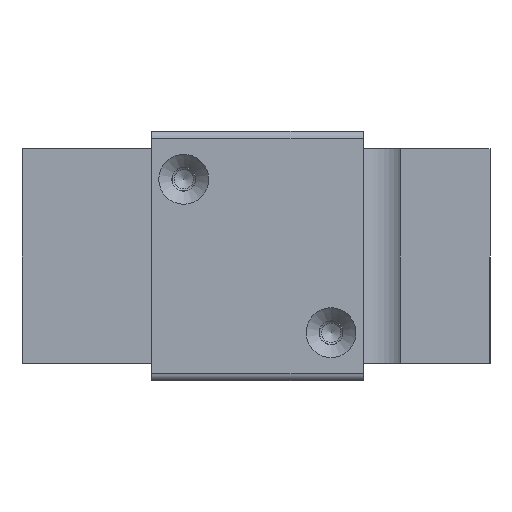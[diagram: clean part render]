
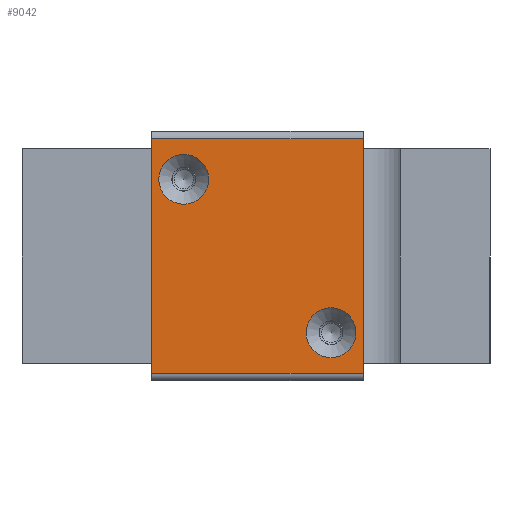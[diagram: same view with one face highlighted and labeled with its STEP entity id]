
A CAD part, left-side view. The second image highlights one B-rep face of the part: STEP entity #9042.
In plain terms, the highlighted planar face has unit normal (-1, 0, 0) as drawn and (0, 0, 1) by its records, which use the part's own axes.
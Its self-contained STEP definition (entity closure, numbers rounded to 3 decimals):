
#587=FACE_BOUND('',#1672,.T.);
#588=FACE_BOUND('',#1673,.T.);
#747=PLANE('',#9808);
#1070=FACE_OUTER_BOUND('',#1671,.T.);
#1671=EDGE_LOOP('',(#6611,#6612,#6613,#6614));
#1672=EDGE_LOOP('',(#6615));
#1673=EDGE_LOOP('',(#6616));
#2376=LINE('',#13197,#3007);
#2384=LINE('',#13222,#3015);
#2394=LINE('',#13246,#3025);
#2395=LINE('',#13247,#3026);
#3007=VECTOR('',#10888,1000.);
#3015=VECTOR('',#10908,1000.);
#3025=VECTOR('',#10932,1000.);
#3026=VECTOR('',#10933,1000.);
#3676=CIRCLE('',#9788,3.25);
#3678=CIRCLE('',#9791,3.25);
#4068=VERTEX_POINT('',#13172);
#4070=VERTEX_POINT('',#13178);
#4075=VERTEX_POINT('',#13195);
#4076=VERTEX_POINT('',#13196);
#4086=VERTEX_POINT('',#13219);
#4087=VERTEX_POINT('',#13221);
#5024=EDGE_CURVE('',#4068,#4068,#3676,.T.);
#5027=EDGE_CURVE('',#4070,#4070,#3678,.T.);
#5034=EDGE_CURVE('',#4075,#4076,#2376,.T.);
#5047=EDGE_CURVE('',#4087,#4086,#2384,.T.);
#5060=EDGE_CURVE('',#4086,#4076,#2394,.T.);
#5061=EDGE_CURVE('',#4075,#4087,#2395,.T.);
#6611=ORIENTED_EDGE('',*,*,#5047,.T.);
#6612=ORIENTED_EDGE('',*,*,#5060,.T.);
#6613=ORIENTED_EDGE('',*,*,#5034,.F.);
#6614=ORIENTED_EDGE('',*,*,#5061,.T.);
#6615=ORIENTED_EDGE('',*,*,#5027,.T.);
#6616=ORIENTED_EDGE('',*,*,#5024,.T.);
#9042=ADVANCED_FACE('',(#1070,#587,#588),#747,.F.);
#9788=AXIS2_PLACEMENT_3D('',#13174,#10865,#10866);
#9791=AXIS2_PLACEMENT_3D('',#13180,#10872,#10873);
#9808=AXIS2_PLACEMENT_3D('',#13245,#10930,#10931);
#10865=DIRECTION('center_axis',(0.,0.,-1.));
#10866=DIRECTION('ref_axis',(-1.,0.,0.));
#10872=DIRECTION('center_axis',(0.,0.,-1.));
#10873=DIRECTION('ref_axis',(-1.,0.,0.));
#10888=DIRECTION('',(1.,0.,0.));
#10908=DIRECTION('',(1.,0.,0.));
#10930=DIRECTION('center_axis',(0.,0.,-1.));
#10931=DIRECTION('ref_axis',(-1.,0.,0.));
#10932=DIRECTION('',(0.,1.,0.));
#10933=DIRECTION('',(0.,-1.,0.));
#13172=CARTESIAN_POINT('',(-13.25,4.2,26.88));
#13174=CARTESIAN_POINT('Origin',(-10.,4.2,26.88));
#13178=CARTESIAN_POINT('',(6.75,23.4,26.88));
#13180=CARTESIAN_POINT('Origin',(10.,23.4,26.88));
#13195=CARTESIAN_POINT('',(-15.26,27.6,26.88));
#13196=CARTESIAN_POINT('',(15.26,27.6,26.88));
#13197=CARTESIAN_POINT('',(-16.26,27.6,26.88));
#13219=CARTESIAN_POINT('',(15.26,0.,26.88));
#13221=CARTESIAN_POINT('',(-15.26,0.,26.88));
#13222=CARTESIAN_POINT('',(-16.26,0.,26.88));
#13245=CARTESIAN_POINT('Origin',(-16.26,27.6,26.88));
#13246=CARTESIAN_POINT('',(15.26,27.6,26.88));
#13247=CARTESIAN_POINT('',(-15.26,27.6,26.88));
